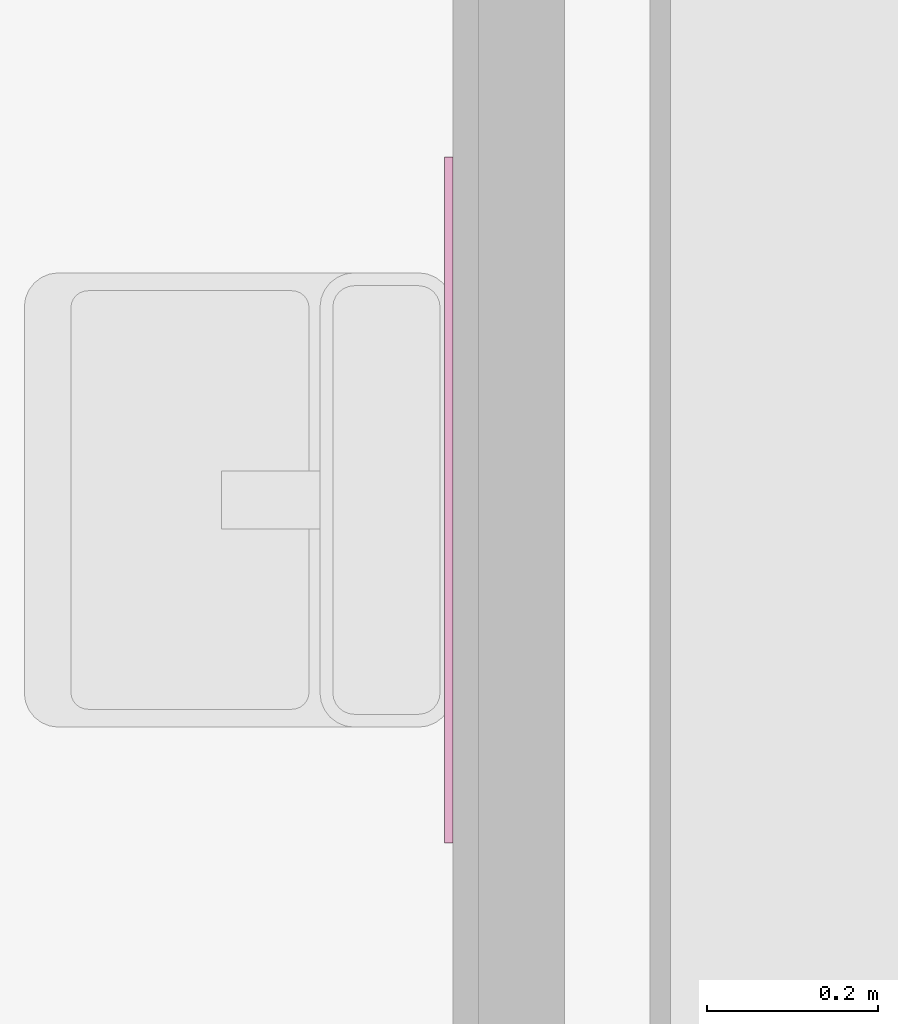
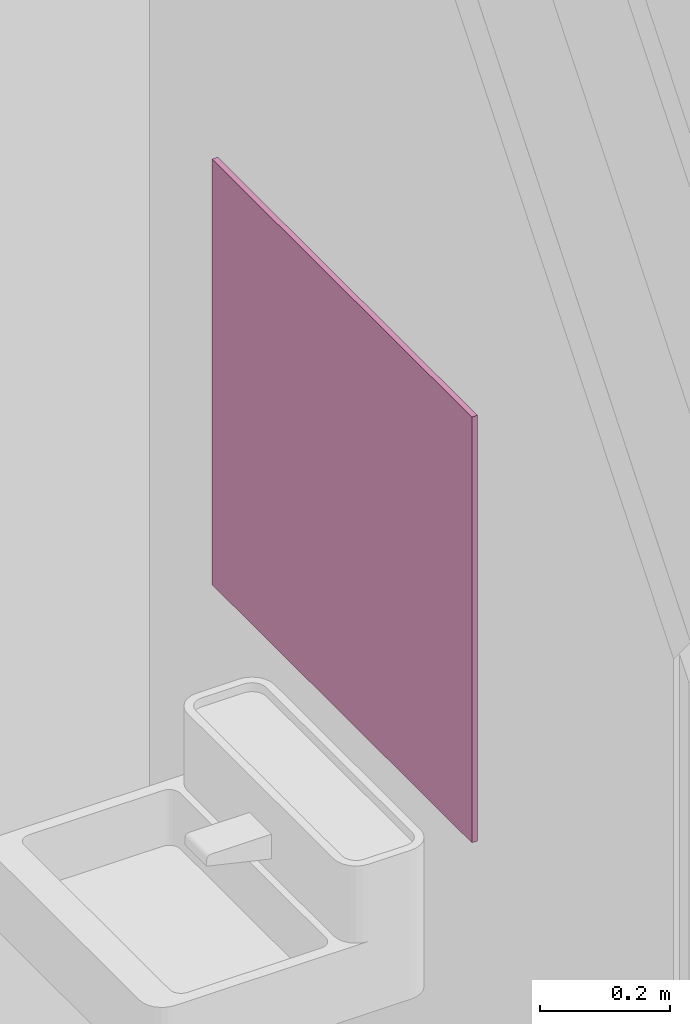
# One storey, part 73 of 76: 1 furnishing.
"""IFC2X3 building model written with IfcOpenShell, lengths in millimetres."""

from ifc_helpers import new_model, entity, si_unit, converted_unit, derived_unit, direction, frame, origin, origin_2d_with_axis, place, context, subcontext, project, spatial, rectangle, extrude, source, transform, mapped, material, type_object, type_shapes, element, save


model = new_model("IFC2X3")

# Units and contexts
model_context = context("Model", 3, precision=0.01, world=origin(), true_north=direction((6.123031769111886e-17, 1.0)))
body_context = subcontext(model_context, "Body", "Model", "MODEL_VIEW")
ifc_project = project(units=[si_unit("LENGTHUNIT", "METRE", prefix="MILLI"), si_unit("AREAUNIT", "SQUARE_METRE"), si_unit("VOLUMEUNIT", "CUBIC_METRE"), converted_unit("PLANEANGLEUNIT", "DEGREE", entity("IfcRatioMeasure", 0.017453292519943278), si_unit("PLANEANGLEUNIT", "RADIAN"), dimensions=[0, 0, 0, 0, 0, 0, 0]), si_unit("MASSUNIT", "GRAM", prefix="KILO"), derived_unit("MASSDENSITYUNIT", [(si_unit("MASSUNIT", "GRAM", prefix="KILO"), 1), (si_unit("LENGTHUNIT", "METRE"), -3)]), derived_unit("MOMENTOFINERTIAUNIT", [(si_unit("LENGTHUNIT", "METRE"), 4)]), si_unit("TIMEUNIT", "SECOND"), si_unit("FREQUENCYUNIT", "HERTZ"), si_unit("THERMODYNAMICTEMPERATUREUNIT", "DEGREE_CELSIUS"), derived_unit("THERMALTRANSMITTANCEUNIT", [(si_unit("MASSUNIT", "GRAM", prefix="KILO"), 1), (si_unit("THERMODYNAMICTEMPERATUREUNIT", "KELVIN"), -1), (si_unit("TIMEUNIT", "SECOND"), -3)]), derived_unit("VOLUMETRICFLOWRATEUNIT", [(si_unit("LENGTHUNIT", "METRE"), 3), (si_unit("TIMEUNIT", "SECOND"), -1)]), derived_unit("MASSFLOWRATEUNIT", [(si_unit("MASSUNIT", "GRAM", prefix="KILO"), 1), (si_unit("TIMEUNIT", "SECOND"), -1)]), derived_unit("ROTATIONALFREQUENCYUNIT", [(si_unit("TIMEUNIT", "SECOND"), -1)]), si_unit("ELECTRICCURRENTUNIT", "AMPERE"), si_unit("ELECTRICVOLTAGEUNIT", "VOLT"), si_unit("POWERUNIT", "WATT"), si_unit("FORCEUNIT", "NEWTON", prefix="KILO"), si_unit("ILLUMINANCEUNIT", "LUX"), si_unit("LUMINOUSFLUXUNIT", "LUMEN"), si_unit("LUMINOUSINTENSITYUNIT", "CANDELA"), derived_unit("USERDEFINED", [(si_unit("MASSUNIT", "GRAM", prefix="KILO"), -1), (si_unit("LENGTHUNIT", "METRE"), -2), (si_unit("TIMEUNIT", "SECOND"), 3), (si_unit("LUMINOUSFLUXUNIT", "LUMEN"), 1)]), derived_unit("SOUNDPOWERUNIT", [(si_unit("MASSUNIT", "GRAM", prefix="KILO"), 1), (si_unit("LENGTHUNIT", "METRE"), 2), (si_unit("TIMEUNIT", "SECOND"), -3)]), derived_unit("SOUNDPRESSUREUNIT", [(si_unit("MASSUNIT", "GRAM", prefix="KILO"), 1), (si_unit("LENGTHUNIT", "METRE"), -1), (si_unit("TIMEUNIT", "SECOND"), -2)]), derived_unit("LINEARVELOCITYUNIT", [(si_unit("LENGTHUNIT", "METRE"), 1), (si_unit("TIMEUNIT", "SECOND"), -1)]), si_unit("PRESSUREUNIT", "PASCAL"), derived_unit("USERDEFINED", [(si_unit("LENGTHUNIT", "METRE"), -2), (si_unit("MASSUNIT", "GRAM", prefix="KILO"), 1), (si_unit("TIMEUNIT", "SECOND"), -2)]), derived_unit("LINEARFORCEUNIT", [(si_unit("MASSUNIT", "GRAM", prefix="KILO"), 1), (si_unit("LENGTHUNIT", "METRE"), 1), (si_unit("TIMEUNIT", "SECOND"), -2), (si_unit("LENGTHUNIT", "METRE"), -1)]), derived_unit("PLANARFORCEUNIT", [(si_unit("MASSUNIT", "GRAM", prefix="KILO"), 1), (si_unit("LENGTHUNIT", "METRE"), 1), (si_unit("TIMEUNIT", "SECOND"), -2), (si_unit("LENGTHUNIT", "METRE"), -2)])], contexts=[model_context])

# Site, building, storey, space
site_placement = place(None, frame((-14167.972527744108, -657.2125860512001, 0.0)))
site = spatial("IfcSite", under=ifc_project, at=site_placement, Name="Default", CompositionType="ELEMENT")
building_placement = place(site_placement, origin())
building = spatial("IfcBuilding", under=site, at=building_placement, Name="Sample Building", CompositionType="ELEMENT")
storey_placement = place(building_placement, frame((0.0, 0.0, 9300.0)))
storey = spatial("IfcBuildingStorey", under=building, at=storey_placement, Name="지상 3층", CompositionType="ELEMENT", Elevation=9300.000000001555)
space_placement = place(storey_placement, origin())
space = spatial("IfcSpace", under=storey, at=space_placement, Name="202", CompositionType="ELEMENT", InteriorOrExteriorSpace="INTERNAL")

# Furnishing
ifc_material = material(Name="KBIMS-거울")
furniture_type = type_object("IfcFurnitureType", Name="PF531-거울:PF531-거울 800x800", material=ifc_material)
shared_shape = source(origin(), body_context, "Body", "SweptSolid", [
    extrude(rectangle(XDim=10.000000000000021, YDim=799.9999999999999, at=origin_2d_with_axis()), frame((0.0, 5.0, 0.0), z_axis=(0.0, 0.0, 1.0), x_axis=(0.0, 1.0, 0.0)), (0.0, 0.0, 1.0), 800.0000000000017),
])
type_shapes(furniture_type, [shared_shape])
furnishing_placement = place(space_placement, frame((36237.96375501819, 24567.313063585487, 1000.0), z_axis=(0.0, 0.0, 1.0), x_axis=(0.0, 1.0, 0.0)))
element("IfcFurnishingElement", 1, at=furnishing_placement, inside=space, type_object=furniture_type, material=ifc_material, Name="PF531-거울:PF531-거울 800x800", ObjectType="PF531-거울:PF531-거울 800x800", context=body_context, shape_type="MappedRepresentation", body=[
    mapped(shared_shape, transform((0.0, 0.0, 0.0), scale=1.0)),
])

save(model, "model.ifc")
